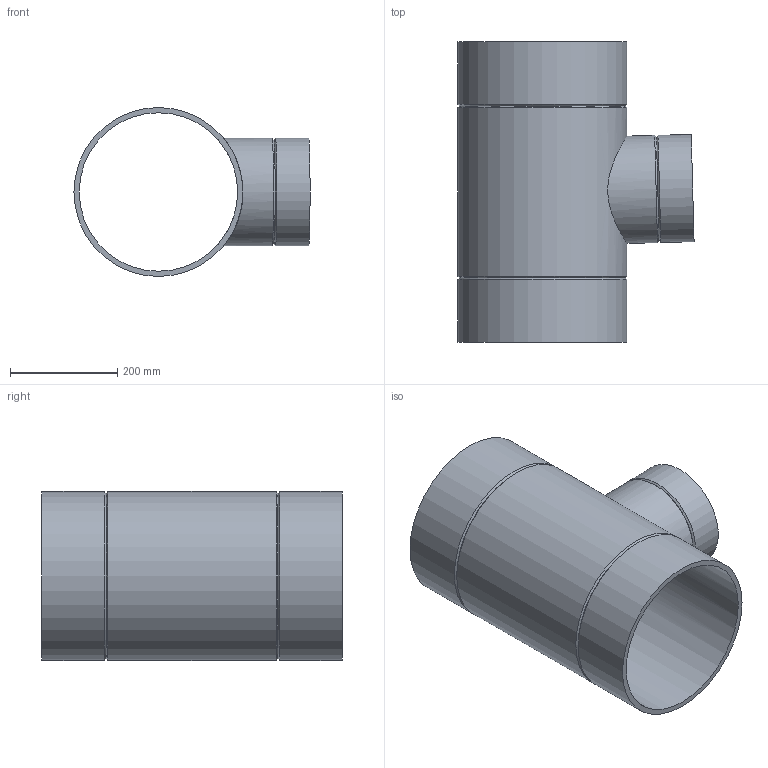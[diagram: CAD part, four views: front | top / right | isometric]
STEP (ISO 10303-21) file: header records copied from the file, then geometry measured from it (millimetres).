
FILE_DESCRIPTION(/* description */ (''),/* implementation_level */ '2;1');
FILE_NAME(/* name */ 'Z:\Geberit\Export\NewStep\372196.stp',/* time_stamp */ '2014-04-02T08:06:41+02:00',/* author */ ('nelson'),/* organization */ (''),/* preprocessor_version */ 'ST-DEVELOPER v15.2',/* originating_system */ 'Autodesk Inventor 2014',/* authorisation */ '');
FILE_SCHEMA (('AUTOMOTIVE_DESIGN { 1 0 10303 214 3 1 1 }'));
Length unit declared in the file: millimetre
Products named in the file (1): 372196
Bounding box: 440.02 x 560 x 315 mm (x, y, z)
Volume: 5469495.1 mm3; surface area: 1215802.5 mm2
Topology: 1 solids, 1 shells, 16 faces, 37 edges, 23 vertices
Faces by surface type: cylinder 7, cone 6, plane 3
Full cylindrical faces by diameter (mm): 187.6 x1, 200 x2, 295.4 x1, 315 x3
Entity records: 503 total; most frequent: CARTESIAN_POINT 181, DIRECTION 64, EDGE_LOOP 34, ORIENTED_EDGE 34, AXIS2_PLACEMENT_3D 32, FACE_BOUND 22, VERTEX_POINT 17, EDGE_CURVE 17
